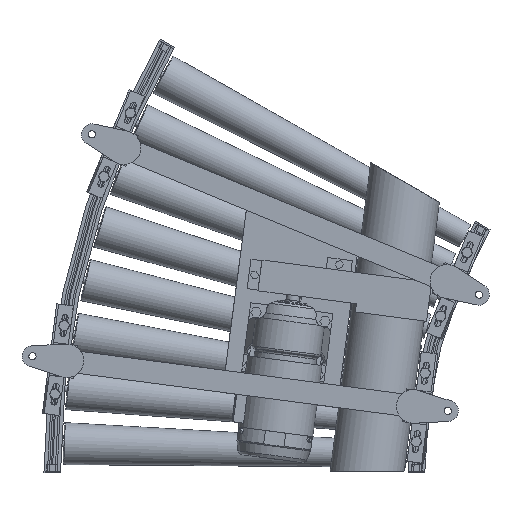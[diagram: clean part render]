
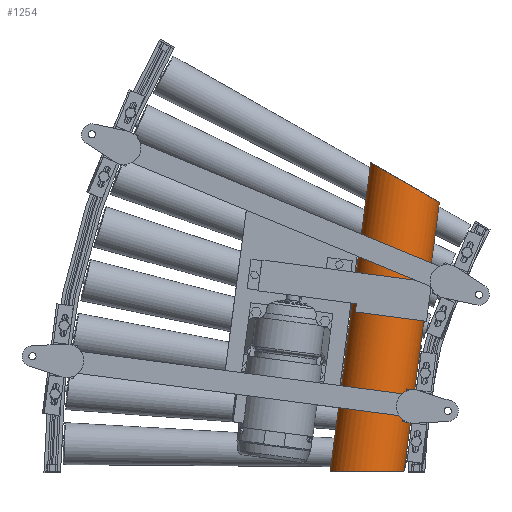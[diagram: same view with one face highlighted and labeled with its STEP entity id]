
A CAD part, front view. The second image highlights one B-rep face of the part: STEP entity #1254.
In plain terms, the highlighted cylindrical face has radius 66.3 mm (diameter 132.6 mm), a partial arc.
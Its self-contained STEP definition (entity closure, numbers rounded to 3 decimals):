
#1254=ADVANCED_FACE('',(#4937),#4936,.T.);
#4936=CYLINDRICAL_SURFACE('',#26541,66.3);
#4937=FACE_OUTER_BOUND('',#26542,.T.);
#26538=CARTESIAN_POINT('',(387.312,-151.7,1116.199));
#26539=DIRECTION('',(0.131,0.,0.991));
#26540=DIRECTION('',(0.991,0.,-0.131));
#26541=AXIS2_PLACEMENT_3D('',#26538,#26539,#26540);
#26542=EDGE_LOOP('',(#38254,#38255,#38256,#38257));
#38254=ORIENTED_EDGE('',*,*,#48785,.F.);
#38255=ORIENTED_EDGE('',*,*,#48786,.F.);
#38256=ORIENTED_EDGE('',*,*,#48787,.T.);
#38257=ORIENTED_EDGE('',*,*,#48782,.T.);
#48782=EDGE_CURVE('',#56324,#56316,#56325,.T.);
#48785=EDGE_CURVE('',#56344,#56316,#56345,.T.);
#48786=EDGE_CURVE('',#56351,#56344,#56352,.T.);
#48787=EDGE_CURVE('',#56351,#56324,#56358,.T.);
#56316=VERTEX_POINT('',#91503);
#56324=VERTEX_POINT('',#91508);
#56325=LINE('',#91509,#91510);
#56344=VERTEX_POINT('',#91519);
#56345=(BOUNDED_CURVE() B_SPLINE_CURVE(2,(#91520,#91521,#91522,#91523,#91524),.UNSPECIFIED.,.F.,.F.) B_SPLINE_CURVE_WITH_KNOTS((3,2,3),(3.142,4.712,6.283),.UNSPECIFIED.) CURVE() GEOMETRIC_REPRESENTATION_ITEM() RATIONAL_B_SPLINE_CURVE((1.,0.707,1.,0.707,1.)) REPRESENTATION_ITEM('') );
#56351=VERTEX_POINT('',#91525);
#56352=LINE('',#91526,#91527);
#56358=(BOUNDED_CURVE() B_SPLINE_CURVE(2,(#91529,#91530,#91531,#91532,#91533),.UNSPECIFIED.,.F.,.F.) B_SPLINE_CURVE_WITH_KNOTS((3,2,3),(0.,1.571,3.142),.UNSPECIFIED.) CURVE() GEOMETRIC_REPRESENTATION_ITEM() RATIONAL_B_SPLINE_CURVE((1.,0.707,1.,0.707,1.)) REPRESENTATION_ITEM('') );
#91503=CARTESIAN_POINT('',(173.49,-151.7,0.));
#91508=CARTESIAN_POINT('',(247.062,-151.7,558.839));
#91509=CARTESIAN_POINT('',(247.062,-151.7,558.839));
#91510=VECTOR('',#91511,563.661);
#91511=DIRECTION('',(-0.131,0.,-0.991));
#91519=CARTESIAN_POINT('',(307.234,-151.7,0.));
#91520=CARTESIAN_POINT('',(307.234,-151.7,0.));
#91521=CARTESIAN_POINT('',(307.234,-218.,0.));
#91522=CARTESIAN_POINT('',(240.362,-218.,0.));
#91523=CARTESIAN_POINT('',(173.49,-218.,0.));
#91524=CARTESIAN_POINT('',(173.49,-151.7,0.));
#91525=CARTESIAN_POINT('',(371.359,-151.7,487.076));
#91526=CARTESIAN_POINT('',(371.359,-151.7,487.076));
#91527=VECTOR('',#91528,491.279);
#91528=DIRECTION('',(-0.131,0.,-0.991));
#91529=CARTESIAN_POINT('',(371.359,-151.7,487.076));
#91530=CARTESIAN_POINT('',(371.359,-218.,487.076));
#91531=CARTESIAN_POINT('',(309.211,-218.,522.958));
#91532=CARTESIAN_POINT('',(247.062,-218.,558.839));
#91533=CARTESIAN_POINT('',(247.062,-151.7,558.839));
